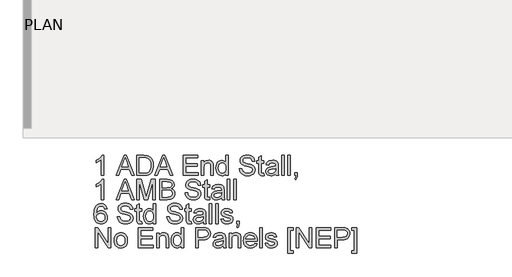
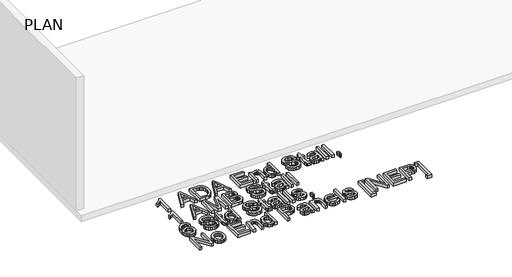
# One storey, part 4 of 21: 1 proxy.
"""IFC4 building model written with IfcOpenShell, lengths in millimetres."""

from ifc_helpers import new_model, si_unit, origin, origin_with_axes, place, context, project, spatial, polyline, outline, extrude, element, save

model = new_model("IFC4")

# Units and contexts
model_context = context("Model", 3, world=origin())
ifc_project = project(units=[si_unit("LENGTHUNIT", "METRE", prefix="MILLI")], contexts=[model_context])

# Site, building, storey
site = spatial("IfcSite", under=ifc_project)
building = spatial("IfcBuilding", under=site)
storey = spatial("IfcBuildingStorey", under=building, Name="PLAN", Elevation=0.0)

# Proxy
placement = place(None, origin())
element("IfcBuildingElementProxy", 1, Name="12\" Arial", ObjectType="12\" Arial", at=placement, inside=storey, context=model_context, shape_type="SweptSolid", body=[
    extrude(outline(polyline([(9828.5429993, -30424.5604361), (9790.4721126, -30424.5604361), (9790.4721126, -30187.2122515), (9754.4088702, -30212.9026643), (9714.330339, -30232.1240007), (9714.330339, -30196.1351156), (9744.2312284, -30179.8694779), (9770.1354182, -30160.5180164), (9790.5557644, -30139.9396611), (9804.0051231, -30119.9933421), (9828.5429993, -30119.9933421), (9828.5429993, -30424.5604361)])), origin_with_axes(), (0.0, 0.0, 1.0), 50.8),
    extrude(outline(polyline([(10016.7410743, -30424.5604361), (10138.3150974, -30119.9933421), (10170.7348369, -30119.9933421), (10292.3088601, -30424.5604361), (10252.0816145, -30424.5604361), (10217.2080874, -30329.3832192), (10091.7674898, -30329.3832192), (10056.9683199, -30424.5604361), (10016.7410743, -30424.5604361)]), holes=[polyline([(10105.7466435, -30291.3123325), (10203.3032908, -30291.3123325), (10175.8654838, -30216.4346314), (10154.5249672, -30158.0642288), (10135.563881, -30209.8911977), (10105.7466435, -30291.3123325)])]), origin_with_axes(), (0.0, 0.0, 1.0), 50.8),
    extrude(outline(polyline([(10332.9822489, -30424.5604361), (10332.9822489, -30119.9933421), (10438.0489735, -30119.9933421), (10492.4040872, -30124.3804169), (10516.6817132, -30132.8385485), (10537.167122, -30146.1670767), (10558.2287991, -30169.3665233), (10573.2303643, -30198.2171172), (10582.2089963, -30232.1611793), (10585.2018736, -30270.6410307), (10583.1756399, -30303.330315), (10577.0969388, -30332.0972571), (10567.8394673, -30356.58866), (10556.2769226, -30376.4513273), (10542.9669836, -30392.131402), (10528.4673295, -30404.0750273), (10511.8206112, -30412.9328289), (10492.0694798, -30419.3554321), (10443.1052631, -30424.5604361), (10332.9822489, -30424.5604361)]), holes=[polyline([(10371.0531356, -30386.4895494), (10438.4207595, -30386.4895494), (10466.2861204, -30385.1139412), (10487.4221547, -30380.9871165), (10503.3717743, -30374.3507363), (10515.677891, -30365.4464616), (10528.9041781, -30348.967047), (10538.840159, -30327.635825), (10545.0582799, -30301.3598492), (10547.1309869, -30270.0461731), (10543.0692248, -30228.5548551), (10530.8839385, -30197.9196884), (10512.8802013, -30176.8766006), (10491.3630864, -30164.1615193), (10469.4648907, -30159.5885514), (10437.3797586, -30158.0642288), (10371.0531356, -30158.0642288), (10371.0531356, -30386.4895494)])]), origin_with_axes(), (0.0, 0.0, 1.0), 50.8),
    extrude(outline(polyline([(10602.0809582, -30424.5604361), (10723.6549813, -30119.9933421), (10756.0747208, -30119.9933421), (10877.648744, -30424.5604361), (10837.4214984, -30424.5604361), (10802.5479713, -30329.3832192), (10677.1073737, -30329.3832192), (10642.3082038, -30424.5604361), (10602.0809582, -30424.5604361)]), holes=[polyline([(10691.0865274, -30291.3123325), (10788.6431748, -30291.3123325), (10761.2053677, -30216.4346314), (10739.8648511, -30158.0642288), (10720.9037649, -30209.8911977), (10691.0865274, -30291.3123325)])]), origin_with_axes(), (0.0, 0.0, 1.0), 50.8),
    extrude(outline(polyline([(11037.2936539, -30424.5604361), (11037.2936539, -30119.9933421), (11256.2012528, -30119.9933421), (11256.2012528, -30158.0642288), (11075.3645407, -30158.0642288), (11075.3645407, -30248.4825849), (11246.6835311, -30248.4825849), (11246.6835311, -30286.5534716), (11075.3645407, -30286.5534716), (11075.3645407, -30386.4895494), (11260.9601136, -30386.4895494), (11260.9601136, -30424.5604361), (11037.2936539, -30424.5604361)])), origin_with_axes(), (0.0, 0.0, 1.0), 50.8),
    extrude(outline(polyline([(11313.3075829, -30424.5604361), (11313.3075829, -30200.8939764), (11351.3784697, -30200.8939764), (11351.3784697, -30232.1240007), (11364.6047567, -30216.3788635), (11380.4893137, -30205.1323369), (11399.0321407, -30198.3844209), (11420.2332375, -30196.1351156), (11438.999136, -30197.9475723), (11456.184944, -30203.3849426), (11470.5172945, -30211.768717), (11480.7228203, -30222.420386), (11492.1366506, -30250.4158721), (11494.144295, -30287.2226864), (11494.144295, -30424.5604361), (11456.0734082, -30424.5604361), (11456.0734082, -30292.3533333), (11451.6863334, -30258.6695214), (11445.6169269, -30248.6405939), (11436.1828571, -30240.8609718), (11424.0905173, -30235.8697447), (11410.046301, -30234.2060023), (11387.7484354, -30237.9424517), (11368.740876, -30249.1517997), (11361.1448232, -30258.3023827), (11355.7190712, -30270.8083344), (11351.3784697, -30305.8863438), (11351.3784697, -30424.5604361), (11313.3075829, -30424.5604361)])), origin_with_axes(), (0.0, 0.0, 1.0), 50.8),
    extrude(outline(polyline([(11684.4987288, -30424.5604361), (11684.4987288, -30388.6459082), (11673.1081351, -30406.4405158), (11659.3102271, -30419.1509498), (11643.1050046, -30426.7772102), (11624.4924678, -30429.319297), (11599.8802344, -30425.6386155), (11577.3500026, -30414.5965712), (11558.2773806, -30396.96462), (11544.0379767, -30373.5142178), (11535.1708805, -30345.193419), (11532.2151818, -30312.9502779), (11534.9385142, -30281.1068067), (11543.1085117, -30252.3491593), (11556.7158794, -30228.3131942), (11575.7513228, -30210.6347697), (11598.774171, -30199.7600291), (11624.3437534, -30196.1351156), (11642.9702322, -30198.7283229), (11659.4403522, -30206.5079451), (11673.4009166, -30218.4329811), (11684.4987288, -30233.4624303), (11684.4987288, -30119.9933421), (11722.5696155, -30119.9933421), (11722.5696155, -30424.5604361), (11684.4987288, -30424.5604361)]), holes=[polyline([(11570.2860685, -30312.8015635), (11574.5801969, -30347.238242), (11587.4625819, -30371.729645), (11606.1820072, -30386.3687189), (11627.9872563, -30391.2484102), (11649.7832107, -30386.5917905), (11668.0286088, -30372.6219314), (11680.3811988, -30349.0785828), (11684.4987288, -30315.7014943), (11680.3068416, -30279.2106981), (11667.73118, -30253.9106605), (11649.0210494, -30239.1321669), (11626.425755, -30234.2060023), (11604.3974343, -30238.9369792), (11586.3472239, -30253.1299099), (11574.3013574, -30277.5097771), (11570.2860685, -30312.8015635)])]), origin_with_axes(), (0.0, 0.0, 1.0), 50.8),
    extrude(outline(polyline([(11889.1297451, -30319.8654975), (11927.2006319, -30319.8654975), (11931.5691174, -30340.9922372), (11939.46957, -30357.9735629), (11951.794276, -30371.4508055), (11969.4355219, -30382.0652959), (11990.9991101, -30388.9526316), (12015.0908431, -30391.2484102), (12036.3012346, -30389.5103106), (12054.8719455, -30384.2960119), (12069.919984, -30376.0423627), (12080.5623583, -30365.1862114), (12086.892015, -30352.7220856), (12089.0019006, -30339.6445129), (12087.4218101, -30326.9015477), (12082.6815385, -30315.8873873), (12073.0522811, -30306.4904961), (12056.8052327, -30298.5993381), (12001.3719396, -30284.0625054), (11964.9833845, -30274.4425426), (11941.700286, -30265.2873122), (11922.7484945, -30252.4792844), (11909.3177251, -30236.9572188), (11901.3150314, -30219.0557227), (11898.6474668, -30199.1094036), (11901.9470676, -30176.811538), (11911.8458699, -30156.0194058), (11928.0836236, -30138.3967492), (11950.4000785, -30125.6073107), (11977.18726, -30117.8276886), (12006.8371938, -30115.2344812), (12038.9595045, -30117.948519), (12067.0665264, -30126.0906325), (12090.1544372, -30139.4935179), (12107.2194148, -30157.9898716), (12118.0197982, -30180.4271569), (12122.3139265, -30205.6528373), (12084.2430398, -30205.6528373), (12077.2534629, -30182.9367124), (12062.6794516, -30166.5409497), (12039.9075588, -30156.6142634), (12008.3243378, -30153.305368), (11975.9975448, -30156.5770848), (11953.8205097, -30166.3922353), (11940.9938926, -30180.8361215), (11936.7183536, -30197.9940456), (11939.7484095, -30212.6238248), (11948.8385773, -30224.3908518), (11970.3278083, -30234.9123957), (12011.0011971, -30245.6570112), (12052.9758369, -30255.862537), (12078.3688209, -30264.7668118), (12100.0718289, -30278.5786618), (12115.2128138, -30295.6250501), (12124.107794, -30315.7200836), (12127.0727874, -30338.6778693), (12123.6616508, -30362.1468608), (12113.428241, -30384.2216547), (12096.7908174, -30403.2199195), (12074.1676391, -30417.4593235), (12046.9621983, -30426.3543036), (12016.5779871, -30429.319297), (11979.2785563, -30426.1219373), (11948.5783271, -30416.5298584), (11924.1241027, -30400.5058817), (11905.5626865, -30378.0128285), (11893.6469451, -30350.6122), (11889.1297451, -30319.8654975)])), origin_with_axes(), (0.0, 0.0, 1.0), 50.8),
    extrude(outline(polyline([(12260.320891, -30392.8099114), (12265.0797519, -30425.6757941), (12236.600944, -30429.319297), (12218.3276619, -30427.7392065), (12204.7017049, -30422.9989349), (12195.0724474, -30415.6933399), (12188.7892639, -30406.4172792), (12185.3316541, -30390.4862489), (12184.1791175, -30363.2157455), (12184.1791175, -30238.9648632), (12155.6259524, -30238.9648632), (12155.6259524, -30200.8939764), (12184.1791175, -30200.8939764), (12184.1791175, -30146.5388627), (12222.2500043, -30124.1573453), (12222.2500043, -30200.8939764), (12260.320891, -30200.8939764), (12260.320891, -30238.9648632), (12222.2500043, -30238.9648632), (12222.2500043, -30362.1003875), (12224.2576487, -30381.7306885), (12230.7639037, -30388.6830868), (12243.7392353, -30391.2484102), (12260.320891, -30392.8099114)])), origin_with_axes(), (0.0, 0.0, 1.0), 50.8),
    extrude(outline(polyline([(12441.1576031, -30396.0072711), (12422.9679729, -30411.6036939), (12404.239253, -30421.8092197), (12384.5438894, -30427.4417776), (12363.4543284, -30429.319297), (12331.6387411, -30424.802097), (12308.1697497, -30411.2504972), (12293.6979795, -30390.6721419), (12288.8740561, -30365.0746756), (12290.6958075, -30349.2923597), (12296.1610618, -30334.9600093), (12304.5913094, -30322.6910712), (12315.3080409, -30313.0989923), (12341.9650974, -30300.6069826), (12374.9053373, -30294.8814781), (12413.8313319, -30288.8585448), (12440.9345315, -30281.7946108), (12441.1576031, -30273.3178899), (12438.5365118, -30256.3272695), (12430.6732378, -30245.210868), (12413.0877599, -30236.9572188), (12388.5870622, -30234.2060023), (12365.908116, -30236.0370484), (12350.0700323, -30241.5301866), (12339.2696489, -30251.6892391), (12331.7038037, -30267.5180282), (12293.6329169, -30262.7591674), (12300.2414131, -30241.9391512), (12310.1030369, -30225.580567), (12324.1379585, -30213.069968), (12343.2663484, -30203.7939072), (12366.6609827, -30198.0498135), (12393.4946375, -30196.1351156), (12419.2315236, -30197.8267419), (12439.6332805, -30202.9016208), (12455.0159264, -30210.5325286), (12465.6954793, -30219.8922412), (12472.7780027, -30231.4640806), (12477.3695599, -30245.7313684), (12479.2284899, -30279.0433944), (12479.2284899, -30326.4089312), (12481.1617771, -30392.5496612), (12488.7462116, -30424.5604361), (12450.6753248, -30424.5604361), (12444.5780343, -30411.3248544), (12441.1576031, -30396.0072711)]), holes=[polyline([(12441.1576031, -30319.8654975), (12379.7385553, -30331.539578), (12346.9842084, -30337.7112257), (12332.1499469, -30347.7494478), (12326.9449428, -30362.3978163), (12329.7798111, -30373.7187001), (12338.2844159, -30382.9947609), (12352.2728643, -30389.1849979), (12371.5592633, -30391.2484102), (12392.0074935, -30388.9712209), (12410.0762932, -30382.1396531), (12424.7246618, -30372.0735471), (12434.9115983, -30360.0927431), (12439.4287982, -30347.7494478), (12440.9345315, -30330.6472916), (12441.1576031, -30319.8654975)])]), origin_with_axes(), (0.0, 0.0, 1.0), 50.8),
    extrude(outline(polyline([(12531.5759592, -30424.5604361), (12531.5759592, -30119.9933421), (12569.6468459, -30119.9933421), (12569.6468459, -30424.5604361), (12531.5759592, -30424.5604361)])), origin_with_axes(), (0.0, 0.0, 1.0), 50.8),
    extrude(outline(polyline([(12626.7531761, -30424.5604361), (12626.7531761, -30119.9933421), (12664.8240628, -30119.9933421), (12664.8240628, -30424.5604361), (12626.7531761, -30424.5604361)])), origin_with_axes(), (0.0, 0.0, 1.0), 50.8),
    extrude(outline(polyline([(12731.4481147, -30424.5604361), (12731.4481147, -30386.4895494), (12769.5190014, -30386.4895494), (12769.5190014, -30424.5604361), (12767.8087858, -30446.3378013), (12762.6781389, -30463.4864307), (12753.8296321, -30476.6383606), (12740.9658363, -30486.4256271), (12731.4481147, -30472.1490446), (12739.7017639, -30465.2524142), (12745.4272684, -30455.7161032), (12750.4092008, -30424.5604361), (12731.4481147, -30424.5604361)])), origin_with_axes(), (0.0, 0.0, 1.0), 50.8),
    extrude(outline(polyline([(9828.5429993, -30790.6131005), (9790.4721126, -30790.6131005), (9790.4721126, -30553.2649158), (9754.4088702, -30578.9553287), (9714.330339, -30598.176665), (9714.330339, -30562.1877799), (9744.2312284, -30545.9221423), (9770.1354182, -30526.5706808), (9790.5557644, -30505.9923255), (9804.0051231, -30486.0460064), (9828.5429993, -30486.0460064), (9828.5429993, -30790.6131005)])), origin_with_axes(), (0.0, 0.0, 1.0), 50.8),
    extrude(outline(polyline([(10016.7410743, -30790.6131005), (10138.3150974, -30486.0460064), (10170.7348369, -30486.0460064), (10292.3088601, -30790.6131005), (10252.0816145, -30790.6131005), (10217.2080874, -30695.4358836), (10091.7674898, -30695.4358836), (10056.9683199, -30790.6131005), (10016.7410743, -30790.6131005)]), holes=[polyline([(10105.7466435, -30657.3649968), (10203.3032908, -30657.3649968), (10175.8654838, -30582.4872957), (10154.5249672, -30524.1168932), (10135.563881, -30575.943862), (10105.7466435, -30657.3649968)])]), origin_with_axes(), (0.0, 0.0, 1.0), 50.8),
    extrude(outline(polyline([(10332.9822489, -30790.6131005), (10332.9822489, -30486.0460064), (10398.4909427, -30486.0460064), (10460.8022769, -30700.7152448), (10473.3686438, -30745.5526368), (10486.9760115, -30696.9973848), (10548.2463449, -30486.0460064), (10613.7550387, -30486.0460064), (10613.7550387, -30790.6131005), (10575.6841519, -30790.6131005), (10575.6841519, -30524.1168932), (10499.1705924, -30790.6131005), (10447.5666951, -30790.6131005), (10371.0531356, -30524.1168932), (10371.0531356, -30790.6131005), (10332.9822489, -30790.6131005)])), origin_with_axes(), (0.0, 0.0, 1.0), 50.8),
    extrude(outline(polyline([(10680.3790905, -30790.6131005), (10680.3790905, -30486.0460064), (10796.5993952, -30486.0460064), (10828.5636969, -30488.2860171), (10853.5198324, -30495.0060491), (10872.6482222, -30506.3734061), (10887.1292871, -30522.5553919), (10896.2473388, -30541.5908353), (10899.2866894, -30561.5185651), (10896.7306606, -30579.8569097), (10889.0625743, -30597.0984856), (10876.2266625, -30612.1837027), (10858.1671574, -30624.0529709), (10879.7400403, -30635.3180868), (10895.6803652, -30652.4574216), (10905.5233996, -30674.3370279), (10908.8044111, -30699.8229584), (10906.5644004, -30721.0612339), (10899.8443684, -30740.7565974), (10889.815441, -30757.5055568), (10877.648744, -30769.9046201), (10862.7494199, -30778.8832521), (10844.5226111, -30785.3709178), (10795.7071088, -30790.6131005), (10680.3790905, -30790.6131005)]), holes=[polyline([(10718.4499773, -30609.7763884), (10787.9739599, -30609.7763884), (10828.5729915, -30606.5046715), (10842.7845115, -30600.8628189), (10852.999332, -30592.413982), (10859.161685, -30581.2882858), (10861.2158026, -30567.6158556), (10859.3011047, -30554.3430952), (10853.557011, -30542.7805505), (10844.2437716, -30533.7554453), (10831.6216368, -30528.0950034), (10782.6945987, -30524.1168932), (10718.4499773, -30524.1168932), (10718.4499773, -30609.7763884)]), polyline([(10718.4499773, -30752.5422137), (10796.525038, -30752.5422137), (10824.7807743, -30751.0550697), (10848.6866143, -30742.7642418), (10864.5246981, -30725.8479787), (10869.1813178, -30713.8950586), (10870.7335243, -30700.1947444), (10868.9117729, -30684.2823035), (10863.4465187, -30670.6005785), (10853.900913, -30659.9024363), (10839.8381074, -30652.9407434), (10819.9196723, -30649.1206422), (10792.807178, -30647.8472751), (10718.4499773, -30647.8472751), (10718.4499773, -30752.5422137)])]), origin_with_axes(), (0.0, 0.0, 1.0), 50.8),
    extrude(outline(polyline([(11065.846819, -30685.9181619), (11103.9177057, -30685.9181619), (11108.2861913, -30707.0449015), (11116.1866438, -30724.0262272), (11128.5113499, -30737.5034699), (11146.1525957, -30748.1179603), (11167.7161839, -30755.005296), (11191.807917, -30757.3010745), (11213.0183085, -30755.562975), (11231.5890193, -30750.3486763), (11246.6370578, -30742.095027), (11257.2794322, -30731.2388757), (11263.6090889, -30718.7747499), (11265.7189744, -30705.6971773), (11264.1388839, -30692.954212), (11259.3986124, -30681.9400516), (11249.7693549, -30672.5431604), (11233.5223065, -30664.6520025), (11178.0890134, -30650.1151697), (11141.7004583, -30640.4952069), (11118.4173599, -30631.3399766), (11099.4655683, -30618.5319487), (11086.034799, -30603.0098831), (11078.0321052, -30585.108387), (11075.3645407, -30565.1620679), (11078.6641414, -30542.8642024), (11088.5629438, -30522.0720701), (11104.8006975, -30504.4494136), (11127.1171523, -30491.659975), (11153.9043339, -30483.8803529), (11183.5542677, -30481.2871455), (11215.6765784, -30484.0011834), (11243.7836002, -30492.1432969), (11266.8715111, -30505.5461823), (11283.9364886, -30524.042536), (11294.736872, -30546.4798213), (11299.0310004, -30571.7055016), (11260.9601136, -30571.7055016), (11253.9705367, -30548.9893768), (11239.3965254, -30532.593614), (11216.6246327, -30522.6669277), (11185.0414117, -30519.3580323), (11152.7146187, -30522.6297491), (11130.5375836, -30532.4448996), (11117.7109665, -30546.8887859), (11113.4354274, -30564.0467099), (11116.4654833, -30578.6764892), (11125.5556511, -30590.4435162), (11147.0448821, -30600.9650601), (11187.7182709, -30611.7096756), (11229.6929107, -30621.9152014), (11255.0858947, -30630.8194762), (11276.7889027, -30644.6313262), (11291.9298877, -30661.6777144), (11300.8248678, -30681.7727479), (11303.7898612, -30704.7305337), (11300.3787246, -30728.1995251), (11290.1453149, -30750.2743191), (11273.5078912, -30769.2725839), (11250.8847129, -30783.5119878), (11223.6792721, -30792.4069679), (11193.295061, -30795.3719613), (11155.9956302, -30792.1746017), (11125.2954009, -30782.5825228), (11100.8411765, -30766.558546), (11082.2797603, -30744.0654928), (11070.3640189, -30716.6648644), (11065.846819, -30685.9181619)])), origin_with_axes(), (0.0, 0.0, 1.0), 50.8),
    extrude(outline(polyline([(11437.0379649, -30758.8625758), (11441.7968257, -30791.7284585), (11413.3180178, -30795.3719613), (11395.0447358, -30793.7918708), (11381.4187787, -30789.0515992), (11371.7895212, -30781.7460043), (11365.5063378, -30772.4699435), (11362.048728, -30756.5389132), (11360.8961913, -30729.2684099), (11360.8961913, -30605.0175275), (11332.3430263, -30605.0175275), (11332.3430263, -30566.9466408), (11360.8961913, -30566.9466408), (11360.8961913, -30512.591527), (11398.9670781, -30490.2100096), (11398.9670781, -30566.9466408), (11437.0379649, -30566.9466408), (11437.0379649, -30605.0175275), (11398.9670781, -30605.0175275), (11398.9670781, -30728.1530519), (11400.9747225, -30747.7833529), (11407.4809776, -30754.7357511), (11420.4563091, -30757.3010745), (11437.0379649, -30758.8625758)])), origin_with_axes(), (0.0, 0.0, 1.0), 50.8),
    extrude(outline(polyline([(11617.874677, -30762.0599354), (11599.6850467, -30777.6563582), (11580.9563268, -30787.861884), (11561.2609633, -30793.494442), (11540.1714022, -30795.3719613), (11508.355815, -30790.8547614), (11484.8868235, -30777.3031615), (11470.4150533, -30756.7248062), (11465.5911299, -30731.1273399), (11467.4128813, -30715.3450241), (11472.8781356, -30701.0126736), (11481.3083832, -30688.7437355), (11492.0251148, -30679.1516566), (11518.6821712, -30666.6596469), (11551.6224111, -30660.9341424), (11590.5484057, -30654.9112092), (11617.6516054, -30647.8472751), (11617.874677, -30639.3705542), (11615.2535856, -30622.3799339), (11607.3903117, -30611.2635324), (11589.8048337, -30603.0098831), (11565.3041361, -30600.2586667), (11542.6251899, -30602.0897127), (11526.7871061, -30607.5828509), (11515.9867227, -30617.7419035), (11508.4208775, -30633.5706926), (11470.3499908, -30628.8118317), (11476.958487, -30607.9918155), (11486.8201107, -30591.6332314), (11500.8550324, -30579.1226324), (11519.9834222, -30569.8465716), (11543.3780565, -30564.1024778), (11570.2117113, -30562.1877799), (11595.9485974, -30563.8794062), (11616.3503543, -30568.9542852), (11631.7330002, -30576.5851929), (11642.4125532, -30585.9449055), (11649.4950766, -30597.5167449), (11654.0866337, -30611.7840328), (11655.9455637, -30645.0960587), (11655.9455637, -30692.4615955), (11657.8788509, -30758.6023256), (11665.4632854, -30790.6131005), (11627.3923987, -30790.6131005), (11621.2951082, -30777.3775187), (11617.874677, -30762.0599354)]), holes=[polyline([(11617.874677, -30685.9181619), (11556.4556292, -30697.5922424), (11523.7012823, -30703.76389), (11508.8670207, -30713.8021121), (11503.6620167, -30728.4504807), (11506.496885, -30739.7713645), (11515.0014898, -30749.0474253), (11528.9899382, -30755.2376622), (11548.2763371, -30757.3010745), (11568.7245673, -30755.0238853), (11586.7933671, -30748.1923175), (11601.4417356, -30738.1262114), (11611.6286721, -30726.1454075), (11616.145872, -30713.8021121), (11617.6516054, -30696.699956), (11617.874677, -30685.9181619)])]), origin_with_axes(), (0.0, 0.0, 1.0), 50.8),
    extrude(outline(polyline([(11708.293033, -30790.6131005), (11708.293033, -30486.0460064), (11746.3639198, -30486.0460064), (11746.3639198, -30790.6131005), (11708.293033, -30790.6131005)])), origin_with_axes(), (0.0, 0.0, 1.0), 50.8),
    extrude(outline(polyline([(11803.4702499, -30790.6131005), (11803.4702499, -30486.0460064), (11841.5411367, -30486.0460064), (11841.5411367, -30790.6131005), (11803.4702499, -30790.6131005)])), origin_with_axes(), (0.0, 0.0, 1.0), 50.8),
    extrude(outline(polyline([(9880.8904686, -30932.9993051), (9842.8195818, -30937.7581659), (9836.6851128, -30918.8900263), (9828.3942849, -30906.0076412), (9811.124825, -30894.1290784), (9790.249041, -30890.1695575), (9772.5520272, -30892.4746307), (9755.8960142, -30899.3898504), (9741.5915477, -30913.9545671), (9729.9081726, -30934.0031273), (9722.0170147, -30962.3611047), (9719.0891999, -31001.8540729), (9734.36031, -30984.0362287), (9752.661476, -30971.4791565), (9772.9702864, -30964.0341417), (9794.2643298, -30961.5524702), (9812.5562012, -30963.2487438), (9829.4352857, -30968.3375647), (9844.9015835, -30976.8189329), (9858.9550944, -30988.6928484), (9870.6338222, -31003.2529178), (9878.9757707, -31019.7927476), (9883.9809398, -31038.3123379), (9885.6493294, -31058.8116887), (9882.5077377, -31086.0728974), (9873.0829625, -31111.345051), (9858.1557545, -31132.7785141), (9838.5068642, -31148.5236513), (9815.0285781, -31158.1993821), (9788.6131825, -31161.4246256), (9765.9179707, -31159.2868561), (9745.4209436, -31152.8735476), (9727.1221012, -31142.1847), (9711.0214436, -31127.2203133), (9697.895074, -31107.3483514), (9688.5190957, -31081.9367781), (9682.8935088, -31050.9855933), (9681.0183131, -31014.4947971), (9683.1003147, -30973.5843947), (9689.3463196, -30938.6690416), (9699.7563277, -30909.7487379), (9714.330339, -30886.8234835), (9730.1265969, -30871.6313779), (9748.4417049, -30860.7798739), (9769.275663, -30854.2689715), (9792.6284714, -30852.0986707), (9826.0334438, -30857.4709785), (9852.7834467, -30873.5879017), (9871.5214613, -30899.1853681), (9880.8904686, -30932.9993051)]), holes=[polyline([(9719.0891999, -31058.2168311), (9721.292032, -31075.086621), (9727.9005282, -31091.1942496), (9738.1618219, -31105.0432782), (9751.3230464, -31115.1372682), (9767.2076034, -31121.2996212), (9785.6388945, -31123.3537389), (9810.7623337, -31119.0967891), (9830.5134651, -31106.3259399), (9843.3121983, -31086.2494957), (9847.5784427, -31060.0757611), (9843.3679662, -31034.9523219), (9830.7365367, -31015.7960481), (9810.6507979, -31003.6665297), (9784.0773933, -30999.6233569), (9758.9911327, -31003.6665297), (9738.0131075, -31015.7960481), (9723.8201768, -31034.4875894), (9719.0891999, -31058.2168311)])]), origin_with_axes(), (0.0, 0.0, 1.0), 50.8),
    extrude(outline(polyline([(10037.9328765, -31051.9708262), (10076.0037632, -31051.9708262), (10080.3722488, -31073.0975659), (10088.2727014, -31090.0788916), (10100.5974074, -31103.5561342), (10118.2386532, -31114.1706246), (10139.8022414, -31121.0579603), (10163.8939745, -31123.3537389), (10185.104366, -31121.6156393), (10203.6750768, -31116.4013406), (10218.7231153, -31108.1476913), (10229.3654897, -31097.29154), (10235.6951464, -31084.8274143), (10237.805032, -31071.7498416), (10236.2249415, -31059.0068763), (10231.4846699, -31047.992716), (10221.8554124, -31038.5958247), (10205.6083641, -31030.7046668), (10150.1750709, -31016.1678341), (10113.7865158, -31006.5478712), (10090.5034174, -30997.3926409), (10071.5516259, -30984.5846131), (10058.1208565, -30969.0625474), (10050.1181627, -30951.1610514), (10047.4505982, -30931.2147323), (10050.750199, -30908.9168667), (10060.6490013, -30888.1247345), (10076.886755, -30870.5020779), (10099.2032099, -30857.7126394), (10125.9903914, -30849.9330173), (10155.6403252, -30847.3398099), (10187.7626359, -30850.0538477), (10215.8696578, -30858.1959612), (10238.9575686, -30871.5988466), (10256.0225461, -30890.0952003), (10266.8229295, -30912.5324856), (10271.1170579, -30937.7581659), (10233.0461711, -30937.7581659), (10226.0565943, -30915.0420411), (10211.4825829, -30898.6462784), (10188.7106902, -30888.7195921), (10157.1274692, -30885.4106966), (10124.8006762, -30888.6824135), (10102.6236411, -30898.497564), (10089.797024, -30912.9414502), (10085.5214849, -30930.0993743), (10088.5515409, -30944.7291535), (10097.6417086, -30956.4961805), (10119.1309396, -30967.0177244), (10159.8043284, -30977.7623399), (10201.7789682, -30987.9678657), (10227.1719523, -30996.8721405), (10248.8749602, -31010.6839905), (10264.0159452, -31027.7303788), (10272.9109253, -31047.8254123), (10275.8759187, -31070.783198), (10272.4647821, -31094.2521895), (10262.2313724, -31116.3269834), (10245.5939487, -31135.3252482), (10222.9707704, -31149.5646521), (10195.7653296, -31158.4596323), (10165.3811185, -31161.4246256), (10128.0816877, -31158.227266), (10097.3814584, -31148.6351871), (10072.9272341, -31132.6112104), (10054.3658178, -31110.1181572), (10042.4500764, -31082.7175287), (10037.9328765, -31051.9708262)])), origin_with_axes(), (0.0, 0.0, 1.0), 50.8),
    extrude(outline(polyline([(10409.1240224, -31124.9152401), (10413.8828832, -31157.7811228), (10385.4040754, -31161.4246256), (10367.1307933, -31159.8445351), (10353.5048363, -31155.1042636), (10343.8755788, -31147.7986686), (10337.5923953, -31138.5226078), (10334.1347855, -31122.5915776), (10332.9822489, -31095.3210742), (10332.9822489, -30971.0701919), (10304.4290838, -30971.0701919), (10304.4290838, -30932.9993051), (10332.9822489, -30932.9993051), (10332.9822489, -30878.6441914), (10371.0531356, -30856.262674), (10371.0531356, -30932.9993051), (10409.1240224, -30932.9993051), (10409.1240224, -30971.0701919), (10371.0531356, -30971.0701919), (10371.0531356, -31094.2057162), (10373.06078, -31113.8360172), (10379.5670351, -31120.7884155), (10392.5423666, -31123.3537389), (10409.1240224, -31124.9152401)])), origin_with_axes(), (0.0, 0.0, 1.0), 50.8),
    extrude(outline(polyline([(10585.2018736, -31156.6657648), (10585.2018736, -31120.7512369), (10573.81128, -31138.5458445), (10560.0133719, -31151.2562785), (10543.8081495, -31158.8825388), (10525.1956127, -31161.4246256), (10500.5833792, -31157.7439442), (10478.0531474, -31146.7018999), (10458.9805254, -31129.0699487), (10444.7411215, -31105.6195465), (10435.8740253, -31077.2987477), (10432.9183266, -31045.0556065), (10435.6416591, -31013.2121354), (10443.8116565, -30984.454488), (10457.4190242, -30960.4185229), (10476.4544676, -30942.7400984), (10499.4773159, -30931.8653578), (10525.0468983, -30928.2404442), (10543.673377, -30930.8336516), (10560.143497, -30938.6132737), (10574.1040614, -30950.5383098), (10585.2018736, -30965.567759), (10585.2018736, -30852.0986707), (10623.2727604, -30852.0986707), (10623.2727604, -31156.6657648), (10585.2018736, -31156.6657648)]), holes=[polyline([(10470.9892134, -31044.9068921), (10475.2833417, -31079.3435707), (10488.1657267, -31103.8349737), (10506.885152, -31118.4740476), (10528.6904011, -31123.3537389), (10550.4863556, -31118.6971192), (10568.7317537, -31104.7272601), (10581.0843436, -31081.1839114), (10585.2018736, -31047.806823), (10581.0099864, -31011.3160267), (10568.4343249, -30986.0159892), (10549.7241943, -30971.2374956), (10527.1288999, -30966.311331), (10505.1005792, -30971.0423079), (10487.0503687, -30985.2352386), (10475.0045022, -31009.6151058), (10470.9892134, -31044.9068921)])]), origin_with_axes(), (0.0, 0.0, 1.0), 50.8),
    extrude(outline(polyline([(10789.83289, -31051.9708262), (10827.9037767, -31051.9708262), (10832.2722623, -31073.0975659), (10840.1727148, -31090.0788916), (10852.4974209, -31103.5561342), (10870.1386667, -31114.1706246), (10891.7022549, -31121.0579603), (10915.793988, -31123.3537389), (10937.0043795, -31121.6156393), (10955.5750903, -31116.4013406), (10970.6231288, -31108.1476913), (10981.2655032, -31097.29154), (10987.5951599, -31084.8274143), (10989.7050454, -31071.7498416), (10988.1249549, -31059.0068763), (10983.3846834, -31047.992716), (10973.7554259, -31038.5958247), (10957.5083775, -31030.7046668), (10902.0750844, -31016.1678341), (10865.6865293, -31006.5478712), (10842.4034309, -30997.3926409), (10823.4516393, -30984.5846131), (10810.02087, -30969.0625474), (10802.0181762, -30951.1610514), (10799.3506117, -30931.2147323), (10802.6502124, -30908.9168667), (10812.5490148, -30888.1247345), (10828.7867685, -30870.5020779), (10851.1032233, -30857.7126394), (10877.8904049, -30849.9330173), (10907.5403387, -30847.3398099), (10939.6626494, -30850.0538477), (10967.7696712, -30858.1959612), (10990.8575821, -30871.5988466), (11007.9225596, -30890.0952003), (11018.722943, -30912.5324856), (11023.0170714, -30937.7581659), (10984.9461846, -30937.7581659), (10977.9566077, -30915.0420411), (10963.3825964, -30898.6462784), (10940.6107037, -30888.7195921), (10909.0274827, -30885.4106966), (10876.7006897, -30888.6824135), (10854.5236546, -30898.497564), (10841.6970375, -30912.9414502), (10837.4214984, -30930.0993743), (10840.4515543, -30944.7291535), (10849.5417221, -30956.4961805), (10871.0309531, -30967.0177244), (10911.7043419, -30977.7623399), (10953.6789817, -30987.9678657), (10979.0719657, -30996.8721405), (11000.7749737, -31010.6839905), (11015.9159587, -31027.7303788), (11024.8109388, -31047.8254123), (11027.7759322, -31070.783198), (11024.3647956, -31094.2521895), (11014.1313859, -31116.3269834), (10997.4939622, -31135.3252482), (10974.8707839, -31149.5646521), (10947.6653431, -31158.4596323), (10917.281132, -31161.4246256), (10879.9817012, -31158.227266), (10849.2814719, -31148.6351871), (10824.8272475, -31132.6112104), (10806.2658313, -31110.1181572), (10794.3500899, -31082.7175287), (10789.83289, -31051.9708262)])), origin_with_axes(), (0.0, 0.0, 1.0), 50.8),
    extrude(outline(polyline([(11161.0240359, -31124.9152401), (11165.7828967, -31157.7811228), (11137.3040888, -31161.4246256), (11119.0308068, -31159.8445351), (11105.4048497, -31155.1042636), (11095.7755922, -31147.7986686), (11089.4924088, -31138.5226078), (11086.034799, -31122.5915776), (11084.8822623, -31095.3210742), (11084.8822623, -30971.0701919), (11056.3290973, -30971.0701919), (11056.3290973, -30932.9993051), (11084.8822623, -30932.9993051), (11084.8822623, -30878.6441914), (11122.9531491, -30856.262674), (11122.9531491, -30932.9993051), (11161.0240359, -30932.9993051), (11161.0240359, -30971.0701919), (11122.9531491, -30971.0701919), (11122.9531491, -31094.2057162), (11124.9607935, -31113.8360172), (11131.4670486, -31120.7884155), (11144.4423801, -31123.3537389), (11161.0240359, -31124.9152401)])), origin_with_axes(), (0.0, 0.0, 1.0), 50.8),
    extrude(outline(polyline([(11341.860748, -31128.1125997), (11323.6711177, -31143.7090226), (11304.9423978, -31153.9145484), (11285.2470343, -31159.5471063), (11264.1574732, -31161.4246256), (11232.341886, -31156.9074257), (11208.8728945, -31143.3558259), (11194.4011243, -31122.7774706), (11189.5772009, -31097.1800042), (11191.3989523, -31081.3976884), (11196.8642066, -31067.065338), (11205.2944542, -31054.7963998), (11216.0111858, -31045.204321), (11242.6682422, -31032.7123112), (11275.6084821, -31026.9868068), (11314.5344767, -31020.9638735), (11341.6376764, -31013.8999395), (11341.860748, -31005.4232186), (11339.2396566, -30988.4325982), (11331.3763827, -30977.3161967), (11313.7909047, -30969.0625474), (11289.2902071, -30966.311331), (11266.6112609, -30968.1423771), (11250.7731771, -30973.6355153), (11239.9727937, -30983.7945678), (11232.4069485, -30999.6233569), (11194.3360618, -30994.8644961), (11200.944558, -30974.0444799), (11210.8061817, -30957.6858957), (11224.8411034, -30945.1752967), (11243.9694932, -30935.8992359), (11267.3641275, -30930.1551422), (11294.1977823, -30928.2404442), (11319.9346684, -30929.9320706), (11340.3364253, -30935.0069495), (11355.7190712, -30942.6378572), (11366.3986242, -30951.9975699), (11373.4811476, -30963.5694092), (11378.0727047, -30977.8366971), (11379.9316347, -31011.148723), (11379.9316347, -31058.5142599), (11381.8649219, -31124.6549899), (11389.4493564, -31156.6657648), (11351.3784697, -31156.6657648), (11345.2811792, -31143.4301831), (11341.860748, -31128.1125997)]), holes=[polyline([(11341.860748, -31051.9708262), (11280.4417002, -31063.6449067), (11247.6873533, -31069.8165544), (11232.8530917, -31079.8547765), (11227.6480877, -31094.503145), (11230.482956, -31105.8240288), (11238.9875608, -31115.1000896), (11252.9760092, -31121.2903266), (11272.2624081, -31123.3537389), (11292.7106383, -31121.0765496), (11310.7794381, -31114.2449818), (11325.4278066, -31104.1788758), (11335.6147431, -31092.1980718), (11340.131943, -31079.8547765), (11341.6376764, -31062.7526203), (11341.860748, -31051.9708262)])]), origin_with_axes(), (0.0, 0.0, 1.0), 50.8),
    extrude(outline(polyline([(11432.279104, -31156.6657648), (11432.279104, -30852.0986707), (11470.3499908, -30852.0986707), (11470.3499908, -31156.6657648), (11432.279104, -31156.6657648)])), origin_with_axes(), (0.0, 0.0, 1.0), 50.8),
    extrude(outline(polyline([(11527.4563209, -31156.6657648), (11527.4563209, -30852.0986707), (11565.5272077, -30852.0986707), (11565.5272077, -31156.6657648), (11527.4563209, -31156.6657648)])), origin_with_axes(), (0.0, 0.0, 1.0), 50.8),
    extrude(outline(polyline([(11608.3569553, -31090.041713), (11646.427842, -31085.2828521), (11652.432186, -31101.5670791), (11664.0504986, -31113.5385884), (11681.3571371, -31120.8999513), (11704.4264586, -31123.3537389), (11727.2169406, -31121.1044336), (11743.2409173, -31114.3565176), (11752.7214604, -31104.5785457), (11755.8816415, -31093.2390726), (11752.7028711, -31083.5354579), (11743.1665601, -31076.1369164), (11703.9803154, -31065.2807651), (11646.6509136, -31046.6542864), (11632.1419648, -31037.2945737), (11621.6297156, -31024.9048052), (11615.244291, -31010.2750259), (11613.1158161, -30994.1952813), (11614.8260317, -30979.4446716), (11619.9566786, -30965.8280092), (11628.0430242, -30953.8843838), (11638.620336, -30944.1528852), (11662.8236048, -30932.8877693), (11695.5779517, -30928.2404442), (11720.3574888, -30930.1086689), (11741.9024877, -30935.7133429), (11759.2277155, -30944.5060819), (11771.3479392, -30955.9385015), (11779.3785169, -30970.8564149), (11784.4348065, -30990.1056352), (11746.3639198, -30994.8644961), (11741.5585857, -30982.8836921), (11732.0501586, -30973.8585869), (11717.7456922, -30968.198145), (11698.5522397, -30966.311331), (11676.6912227, -30968.1144931), (11662.1172114, -30973.5239795), (11653.91933, -30981.3314855), (11651.1867029, -30990.3287068), (11655.7224921, -31001.4079297), (11669.9247175, -31009.8102934), (11702.716243, -31017.9152283), (11758.5956793, -31035.8353137), (11773.3555836, -31044.404981), (11784.5463423, -31056.1348295), (11791.6009817, -31071.0620375), (11793.9525282, -31089.2237838), (11791.1920171, -31107.9989769), (11782.9104839, -31125.6588121), (11769.4239466, -31140.8183864), (11751.0484234, -31152.092797), (11728.852799, -31159.0916685), (11703.9059582, -31161.4246256), (11665.5190533, -31156.926015), (11637.5049779, -31143.4301831), (11618.804142, -31121.0858443), (11608.3569553, -31090.041713)])), origin_with_axes(), (0.0, 0.0, 1.0), 50.8),
    extrude(outline(polyline([(11846.2999975, -31156.6657648), (11846.2999975, -31118.594878), (11884.3708843, -31118.594878), (11884.3708843, -31156.6657648), (11882.6606687, -31178.44313), (11877.5300218, -31195.5917594), (11868.6815149, -31208.7436892), (11855.8177192, -31218.5309558), (11846.2999975, -31204.2543732), (11854.5536468, -31197.3577429), (11860.2791512, -31187.8214319), (11865.2610837, -31156.6657648), (11846.2999975, -31156.6657648)])), origin_with_axes(), (0.0, 0.0, 1.0), 50.8),
    extrude(outline(polyline([(9700.0537565, -31522.7184291), (9700.0537565, -31218.1513351), (9740.8015025, -31218.1513351), (9899.925912, -31459.4404513), (9899.925912, -31218.1513351), (9937.9967987, -31218.1513351), (9937.9967987, -31522.7184291), (9897.2490528, -31522.7184291), (9738.1246433, -31281.3549557), (9738.1246433, -31522.7184291), (9700.0537565, -31522.7184291)])), origin_with_axes(), (0.0, 0.0, 1.0), 50.8),
    extrude(outline(polyline([(9990.344268, -31410.8851993), (9992.403033, -31381.9184223), (9998.579328, -31356.9576395), (10008.873153, -31336.0028509), (10023.2845079, -31319.0540564), (10037.7934567, -31308.2211417), (10053.8081388, -31300.4833455), (10071.3285542, -31295.8406678), (10090.354703, -31294.2931086), (10111.3582885, -31296.1775989), (10130.3495823, -31301.8310698), (10147.3285844, -31311.2535213), (10162.2952947, -31324.4449535), (10174.5107885, -31340.959223), (10183.2361413, -31360.3501868), (10188.471353, -31382.6178447), (10190.2164235, -31407.7621969), (10187.1305997, -31446.2234589), (10177.8731282, -31475.5016067), (10162.7135539, -31497.4276863), (10141.9214217, -31513.8327437), (10117.2255364, -31524.0661534), (10090.354703, -31527.47729), (10069.044394, -31525.5997707), (10049.8765018, -31519.9672127), (10032.8510265, -31510.5796161), (10017.9679681, -31497.4369809), (10005.8825993, -31480.7623786), (9997.2501931, -31460.778881), (9992.0707493, -31437.4864878), (9990.344268, -31410.8851993)]), holes=[polyline([(10028.4151548, -31410.8108421), (10032.8208189, -31445.26611), (10046.0378114, -31469.8132808), (10065.9283625, -31484.5081226), (10090.354703, -31489.4064032), (10114.6695076, -31484.4802387), (10134.5228802, -31469.701745), (10147.7398726, -31444.8292614), (10152.1455368, -31409.6211269), (10147.7119887, -31376.1696812), (10134.4113444, -31351.9571177), (10114.5300879, -31337.2622759), (10090.354703, -31332.3639953), (10065.9283625, -31337.2436866), (10046.0378114, -31351.8827605), (10032.8208189, -31376.3741635), (10028.4151548, -31410.8108421)])]), origin_with_axes(), (0.0, 0.0, 1.0), 50.8),
    extrude(outline(polyline([(10356.7765531, -31522.7184291), (10356.7765531, -31218.1513351), (10575.6841519, -31218.1513351), (10575.6841519, -31256.2222218), (10394.8474398, -31256.2222218), (10394.8474398, -31346.6405779), (10566.1664303, -31346.6405779), (10566.1664303, -31384.7114646), (10394.8474398, -31384.7114646), (10394.8474398, -31484.6475424), (10580.4430128, -31484.6475424), (10580.4430128, -31522.7184291), (10356.7765531, -31522.7184291)])), origin_with_axes(), (0.0, 0.0, 1.0), 50.8),
    extrude(outline(polyline([(10632.7904821, -31522.7184291), (10632.7904821, -31299.0519694), (10670.8613688, -31299.0519694), (10670.8613688, -31330.2819937), (10684.0876559, -31314.5368565), (10699.9722129, -31303.2903299), (10718.5150398, -31296.5424139), (10739.7161367, -31294.2931086), (10758.4820352, -31296.1055654), (10775.6678432, -31301.5429357), (10790.0001937, -31309.92671), (10800.2057195, -31320.578379), (10811.6195498, -31348.5738651), (10813.6271942, -31385.3806794), (10813.6271942, -31522.7184291), (10775.5563074, -31522.7184291), (10775.5563074, -31390.5113263), (10771.1692326, -31356.8275144), (10765.0998261, -31346.7985869), (10755.6657562, -31339.0189648), (10743.5734165, -31334.0277377), (10729.5292002, -31332.3639953), (10707.2313346, -31336.1004447), (10688.2237752, -31347.3097927), (10680.6277224, -31356.4603757), (10675.2019704, -31368.9663274), (10670.8613688, -31404.0443368), (10670.8613688, -31522.7184291), (10632.7904821, -31522.7184291)])), origin_with_axes(), (0.0, 0.0, 1.0), 50.8),
    extrude(outline(polyline([(11003.981628, -31522.7184291), (11003.981628, -31486.8039012), (10992.5910343, -31504.5985088), (10978.7931262, -31517.3089428), (10962.5879038, -31524.9352032), (10943.975367, -31527.47729), (10919.3631336, -31523.7966086), (10896.8329018, -31512.7545642), (10877.7602798, -31495.122613), (10863.5208759, -31471.6722109), (10854.6537797, -31443.351412), (10851.6980809, -31411.1082709), (10854.4214134, -31379.2647997), (10862.5914109, -31350.5071523), (10876.1987786, -31326.4711872), (10895.234222, -31308.7927627), (10918.2570702, -31297.9180221), (10943.8266526, -31294.2931086), (10962.4531314, -31296.886316), (10978.9232513, -31304.6659381), (10992.8838158, -31316.5909741), (11003.981628, -31331.6204233), (11003.981628, -31218.1513351), (11042.0525147, -31218.1513351), (11042.0525147, -31522.7184291), (11003.981628, -31522.7184291)]), holes=[polyline([(10889.7689677, -31410.9595565), (10894.063096, -31445.3962351), (10906.9454811, -31469.887638), (10925.6649063, -31484.5267119), (10947.4701554, -31489.4064032), (10969.2661099, -31484.7497835), (10987.511508, -31470.7799245), (10999.864098, -31447.2365758), (11003.981628, -31413.8594873), (10999.7897408, -31377.3686911), (10987.2140792, -31352.0686535), (10968.5039486, -31337.2901599), (10945.9086542, -31332.3639953), (10923.8803335, -31337.0949722), (10905.8301231, -31351.2879029), (10893.7842565, -31375.6677701), (10889.7689677, -31410.9595565)])]), origin_with_axes(), (0.0, 0.0, 1.0), 50.8),
    extrude(outline(polyline([(11222.8892268, -31522.7184291), (11222.8892268, -31218.1513351), (11335.7634575, -31218.1513351), (11381.2700643, -31221.0512659), (11401.5602855, -31226.4700469), (11418.2627717, -31235.2906698), (11431.7121304, -31247.9128047), (11442.2429689, -31264.7361213), (11449.0466528, -31284.5801992), (11451.3145474, -31306.2646179), (11449.7832538, -31324.9608066), (11445.189373, -31342.1605565), (11437.532905, -31357.8638679), (11426.8138498, -31372.0707405), (11412.098095, -31383.8470622), (11392.4515284, -31392.2587205), (11367.8741499, -31397.3057155), (11338.3659595, -31398.9880472), (11260.9601136, -31398.9880472), (11260.9601136, -31522.7184291), (11222.8892268, -31522.7184291)]), holes=[polyline([(11260.9601136, -31360.9171604), (11340.5966756, -31360.9171604), (11374.3548447, -31357.422372), (11396.6620049, -31346.9380067), (11409.0982467, -31330.11469), (11413.2436606, -31307.6030475), (11410.7991677, -31290.5008914), (11403.4656887, -31276.0755944), (11392.1540996, -31265.2194431), (11377.7752759, -31258.8247239), (11339.7043891, -31256.2222218), (11260.9601136, -31256.2222218), (11260.9601136, -31360.9171604)])]), origin_with_axes(), (0.0, 0.0, 1.0), 50.8),
    extrude(outline(polyline([(11641.6689812, -31494.1652641), (11623.479351, -31509.7616869), (11604.750631, -31519.9672127), (11585.0552675, -31525.5997707), (11563.9657065, -31527.47729), (11532.1501192, -31522.96009), (11508.6811277, -31509.4084902), (11494.2093575, -31488.8301349), (11489.3854342, -31463.2326686), (11491.2071856, -31447.4503527), (11496.6724398, -31433.1180023), (11505.1026875, -31420.8490642), (11515.819419, -31411.2569853), (11542.4764755, -31398.7649756), (11575.4167154, -31393.0394711), (11614.3427099, -31387.0165379), (11641.4459096, -31379.9526038), (11641.6689812, -31371.4758829), (11639.0478899, -31354.4852626), (11631.1846159, -31343.3688611), (11613.5991379, -31335.1152118), (11589.0984403, -31332.3639953), (11566.4194941, -31334.1950414), (11550.5814103, -31339.6881796), (11539.7810269, -31349.8472322), (11532.2151818, -31365.6760213), (11494.144295, -31360.9171604), (11500.7527912, -31340.0971442), (11510.614415, -31323.7385601), (11524.6493366, -31311.227961), (11543.7777265, -31301.9519003), (11567.1723607, -31296.2078065), (11594.0060155, -31294.2931086), (11619.7429016, -31295.9847349), (11640.1446586, -31301.0596139), (11655.5273045, -31308.6905216), (11666.2068574, -31318.0502342), (11673.2893808, -31329.6220736), (11677.8809379, -31343.8893615), (11679.7398679, -31377.2013874), (11679.7398679, -31424.5669242), (11681.6731552, -31490.7076542), (11689.2575896, -31522.7184291), (11651.1867029, -31522.7184291), (11645.0894124, -31509.4828474), (11641.6689812, -31494.1652641)]), holes=[polyline([(11641.6689812, -31418.0234906), (11580.2499334, -31429.6975711), (11547.4955865, -31435.8692187), (11532.661325, -31445.9074408), (11527.4563209, -31460.5558094), (11530.2911892, -31471.8766932), (11538.795794, -31481.1527539), (11552.7842424, -31487.3429909), (11572.0706413, -31489.4064032), (11592.5188715, -31487.129214), (11610.5876713, -31480.2976461), (11625.2360398, -31470.2315401), (11635.4229763, -31458.2507361), (11639.9401763, -31445.9074408), (11641.4459096, -31428.8052847), (11641.6689812, -31418.0234906)])]), origin_with_axes(), (0.0, 0.0, 1.0), 50.8),
    extrude(outline(polyline([(11732.0873372, -31522.7184291), (11732.0873372, -31299.0519694), (11770.158224, -31299.0519694), (11770.158224, -31330.2819937), (11783.3845111, -31314.5368565), (11799.2690681, -31303.2903299), (11817.811895, -31296.5424139), (11839.0129918, -31294.2931086), (11857.7788904, -31296.1055654), (11874.9646984, -31301.5429357), (11889.2970488, -31309.92671), (11899.5025746, -31320.578379), (11910.9164049, -31348.5738651), (11912.9240493, -31385.3806794), (11912.9240493, -31522.7184291), (11874.8531626, -31522.7184291), (11874.8531626, -31390.5113263), (11870.4660877, -31356.8275144), (11864.3966812, -31346.7985869), (11854.9626114, -31339.0189648), (11842.8702716, -31334.0277377), (11828.8260554, -31332.3639953), (11806.5281898, -31336.1004447), (11787.5206304, -31347.3097927), (11779.9245776, -31356.4603757), (11774.4988256, -31368.9663274), (11770.158224, -31404.0443368), (11770.158224, -31522.7184291), (11732.0873372, -31522.7184291)])), origin_with_axes(), (0.0, 0.0, 1.0), 50.8),
    extrude(outline(polyline([(12121.8677833, -31456.0943773), (12159.1950981, -31460.8532382), (12145.7457394, -31488.9788493), (12124.2843923, -31510.0033478), (12095.2943787, -31523.1088044), (12059.2590203, -31527.47729), (12035.6366671, -31525.5927997), (12014.588932, -31519.9393288), (11996.115815, -31510.5168772), (11980.217316, -31497.3254451), (11967.4325248, -31480.732171), (11958.3005311, -31461.1041937), (11952.8213348, -31438.4415131), (11950.9949361, -31412.7441293), (11952.8399241, -31386.175372), (11958.3748883, -31362.7575011), (11967.5998285, -31342.4905166), (11980.5147448, -31325.3744185), (11996.3714178, -31311.7763454), (12014.4216283, -31302.0634361), (12034.6653762, -31296.2356905), (12057.1026615, -31294.2931086), (12078.8172878, -31296.2310431), (12098.4545597, -31302.0448468), (12116.0144774, -31311.7345195), (12131.4970408, -31325.3000613), (12144.1354413, -31342.3789808), (12153.1628702, -31362.6087867), (12158.5793275, -31385.989479), (12160.3848133, -31412.5210577), (12160.1617417, -31422.7823514), (11989.0658229, -31422.7823514), (11995.6557298, -31451.2797486), (12010.9640185, -31472.2298899), (12033.0574017, -31485.1122749), (12060.0025923, -31489.4064032), (12080.2649295, -31487.4173481), (12097.3299071, -31481.4501828), (12111.197525, -31471.1331212), (12121.8677833, -31456.0943773)]), holes=[polyline([(11989.0658229, -31384.7114646), (12122.3139265, -31384.7114646), (12117.1646904, -31364.5978419), (12107.0707004, -31350.2097235), (12084.875076, -31336.8254274), (12056.9539471, -31332.3639953), (12031.2914182, -31335.9238463), (12010.0717321, -31346.6033993), (11995.3211224, -31363.2501176), (11989.0658229, -31384.7114646)])]), origin_with_axes(), (0.0, 0.0, 1.0), 50.8),
    extrude(outline(polyline([(12198.4557, -31522.7184291), (12198.4557, -31218.1513351), (12236.5265868, -31218.1513351), (12236.5265868, -31522.7184291), (12198.4557, -31522.7184291)])), origin_with_axes(), (0.0, 0.0, 1.0), 50.8),
    extrude(outline(polyline([(12279.3563344, -31456.0943773), (12317.4272212, -31451.3355165), (12323.4315651, -31467.6197434), (12335.0498777, -31479.5912527), (12352.3565162, -31486.9526156), (12375.4258377, -31489.4064032), (12398.2163197, -31487.1570979), (12414.2402965, -31480.4091819), (12423.7208396, -31470.63121), (12426.8810206, -31459.2917369), (12423.7022503, -31449.5881223), (12414.1659393, -31442.1895808), (12374.9796945, -31431.3334295), (12317.6502928, -31412.7069507), (12303.141344, -31403.3472381), (12292.6290947, -31390.9574695), (12286.2436701, -31376.3276903), (12284.1151952, -31360.2479456), (12285.8254109, -31345.4973359), (12290.9560577, -31331.8806735), (12299.0424033, -31319.9370482), (12309.6197151, -31310.2055495), (12333.8229839, -31298.9404336), (12366.5773308, -31294.2931086), (12391.3568679, -31296.1613333), (12412.9018669, -31301.7660073), (12430.2270946, -31310.5587462), (12442.3473183, -31321.9911658), (12450.377896, -31336.9090792), (12455.4341857, -31356.1582996), (12417.3632989, -31360.9171604), (12412.5579648, -31348.9363565), (12403.0495378, -31339.9112512), (12388.7450713, -31334.2508093), (12369.5516188, -31332.3639953), (12347.6906018, -31334.1671575), (12333.1165905, -31339.5766438), (12324.9187091, -31347.3841499), (12322.186082, -31356.3813712), (12326.7218712, -31367.4605941), (12340.9240966, -31375.8629578), (12373.7156221, -31383.9678926), (12429.5950584, -31401.887978), (12444.3549627, -31410.4576454), (12455.5457215, -31422.1874938), (12462.6003609, -31437.1147018), (12464.9519073, -31455.2764481), (12462.1913963, -31474.0516413), (12453.909863, -31491.7114764), (12440.4233258, -31506.8710507), (12422.0478025, -31518.1454613), (12399.8521781, -31525.1443328), (12374.9053373, -31527.47729), (12336.5184324, -31522.9786793), (12308.5043571, -31509.4828474), (12289.8035211, -31487.1385086), (12279.3563344, -31456.0943773)])), origin_with_axes(), (0.0, 0.0, 1.0), 50.8),
    extrude(outline(polyline([(12626.7531761, -31608.3779243), (12626.7531761, -31218.1513351), (12707.6538104, -31218.1513351), (12707.6538104, -31256.2222218), (12664.8240628, -31256.2222218), (12664.8240628, -31570.3070376), (12707.6538104, -31570.3070376), (12707.6538104, -31608.3779243), (12626.7531761, -31608.3779243)])), origin_with_axes(), (0.0, 0.0, 1.0), 50.8),
    extrude(outline(polyline([(12750.483558, -31522.7184291), (12750.483558, -31218.1513351), (12791.231304, -31218.1513351), (12950.3557135, -31459.4404513), (12950.3557135, -31218.1513351), (12988.4266003, -31218.1513351), (12988.4266003, -31522.7184291), (12947.6788543, -31522.7184291), (12788.5544448, -31281.3549557), (12788.5544448, -31522.7184291), (12750.483558, -31522.7184291)])), origin_with_axes(), (0.0, 0.0, 1.0), 50.8),
    extrude(outline(polyline([(13055.0506521, -31522.7184291), (13055.0506521, -31218.1513351), (13273.958251, -31218.1513351), (13273.958251, -31256.2222218), (13093.1215389, -31256.2222218), (13093.1215389, -31346.6405779), (13264.4405293, -31346.6405779), (13264.4405293, -31384.7114646), (13093.1215389, -31384.7114646), (13093.1215389, -31484.6475424), (13278.7171118, -31484.6475424), (13278.7171118, -31522.7184291), (13055.0506521, -31522.7184291)])), origin_with_axes(), (0.0, 0.0, 1.0), 50.8),
    extrude(outline(polyline([(13335.8234419, -31522.7184291), (13335.8234419, -31218.1513351), (13448.6976726, -31218.1513351), (13494.2042794, -31221.0512659), (13514.4945006, -31226.4700469), (13531.1969868, -31235.2906698), (13544.6463455, -31247.9128047), (13555.177184, -31264.7361213), (13561.9808679, -31284.5801992), (13564.2487625, -31306.2646179), (13562.7174689, -31324.9608066), (13558.1235881, -31342.1605565), (13550.4671201, -31357.8638679), (13539.7480649, -31372.0707405), (13525.0323101, -31383.8470622), (13505.3857435, -31392.2587205), (13480.808365, -31397.3057155), (13451.3001746, -31398.9880472), (13373.8943287, -31398.9880472), (13373.8943287, -31522.7184291), (13335.8234419, -31522.7184291)]), holes=[polyline([(13373.8943287, -31360.9171604), (13453.5308907, -31360.9171604), (13487.2890598, -31357.422372), (13509.59622, -31346.9380067), (13522.0324618, -31330.11469), (13526.1778757, -31307.6030475), (13523.7333828, -31290.5008914), (13516.3999038, -31276.0755944), (13505.0883147, -31265.2194431), (13490.709491, -31258.8247239), (13452.6386042, -31256.2222218), (13373.8943287, -31256.2222218), (13373.8943287, -31360.9171604)])]), origin_with_axes(), (0.0, 0.0, 1.0), 50.8),
    extrude(outline(polyline([(13673.7025619, -31608.3779243), (13592.8019276, -31608.3779243), (13592.8019276, -31570.3070376), (13635.6316752, -31570.3070376), (13635.6316752, -31256.2222218), (13592.8019276, -31256.2222218), (13592.8019276, -31218.1513351), (13673.7025619, -31218.1513351), (13673.7025619, -31608.3779243)])), origin_with_axes(), (0.0, 0.0, 1.0), 50.8),
])

save(model, "model.ifc")
